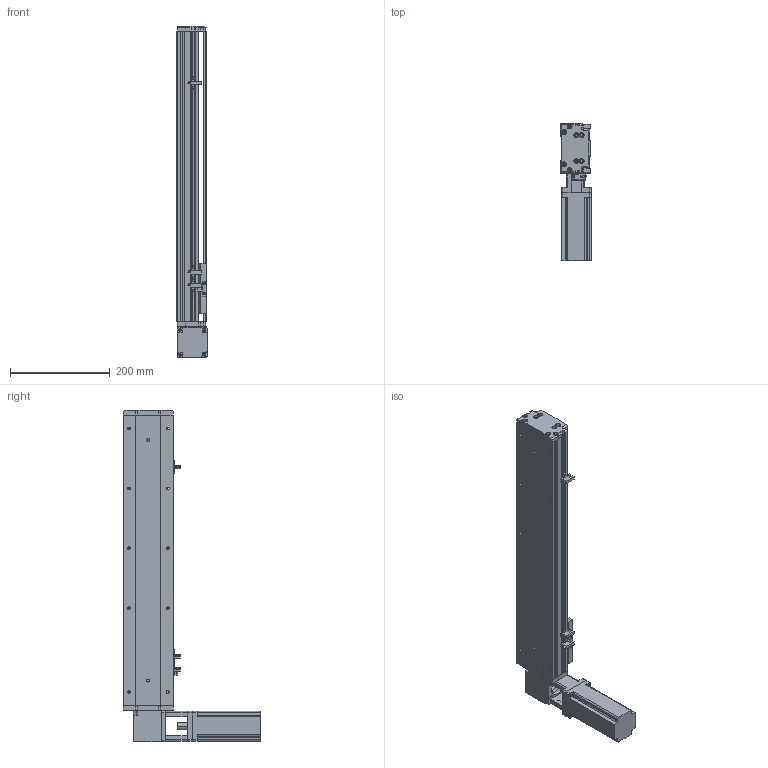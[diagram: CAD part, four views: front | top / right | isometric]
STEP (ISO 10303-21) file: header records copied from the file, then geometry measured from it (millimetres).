
FILE_DESCRIPTION (( 'STEP AP214' ), '1' );
FILE_NAME ('KSD100B-S400-MLT-CM.STEP', '2019-10-26T05:44:29', ( '微软用户' ), ( '微软中国' ), 'SwSTEP 2.0', 'SolidWorks 2014', '' );
FILE_SCHEMA (( 'AUTOMOTIVE_DESIGN' ));
Length unit declared in the file: millimetre
Products named in the file (12): 100宽安装板同步带带电机座400W,86; 100遵鎮湛假蚾啣1 ; 100宽防尘板400行程-同步带; U倰嫖萇EEㄜSX672; 覜茼え100遵圉猾敕; 台达ECMA－C20604AS伺服电机; 100宽马达安装板同步带右; 100宽同步带安装板半封闭; 100宽马达安装板同步带; 100遵傷啣肮祭湍; 100宽底板半封闭同步带400行程; KSD100B-S400-MLT-CM
Assembly tree (13 placements, depth 2):
  KSD100B-S400-MLT-CM
    100宽底板半封闭同步带400行程
    100遵傷啣肮祭湍
    100宽马达安装板同步带
    100宽同步带安装板半封闭
    100宽马达安装板同步带右
    台达ECMA－C20604AS伺服电机
    覜茼え100遵圉猾敕
    U倰嫖萇EEㄜSX672  x3
    100宽防尘板400行程-同步带
    100遵鎮湛假蚾啣1 
    100宽安装板同步带带电机座400W,86
Bounding box: 61 x 275 x 665 mm (x, y, z)
Volume: 1805826.1 mm3; surface area: 546367.7 mm2
Topology: 14 solids, 14 shells, 1286 faces, 3579 edges, 2297 vertices
Faces by surface type: cylinder 632, plane 555, cone 99
Entity records: 43359 total; most frequent: CARTESIAN_POINT 7924, DIRECTION 6179, ORIENTED_EDGE 5866, EDGE_CURVE 2933, AXIS2_PLACEMENT_3D 2258, VERTEX_POINT 1921, VECTOR 1663, LINE 1663
